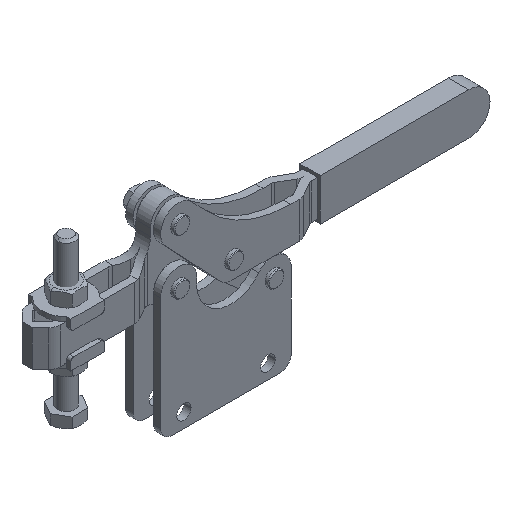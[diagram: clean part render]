
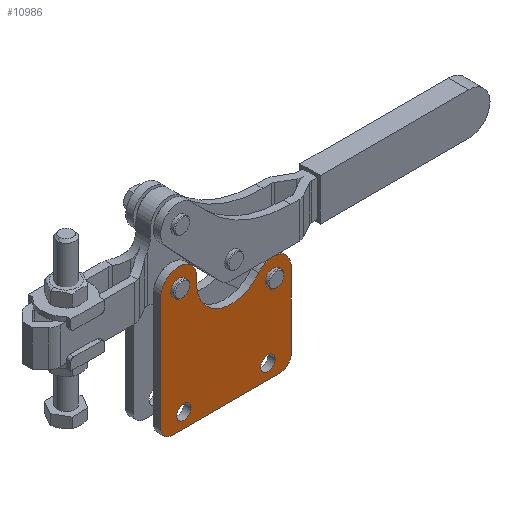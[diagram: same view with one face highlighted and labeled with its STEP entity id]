
A CAD part, isometric view. The second image highlights one B-rep face of the part: STEP entity #10986.
In plain terms, the highlighted planar face has unit normal (0, -1, 0).
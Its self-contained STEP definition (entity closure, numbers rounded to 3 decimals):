
#10879=CARTESIAN_POINT('Axis2P3D Location',(0.,-12.,0.)) ;
#10884=CARTESIAN_POINT('Axis2P3D Location',(101.865,-12.,56.03)) ;
#10888=CARTESIAN_POINT('Cartesian Point',(78.007,-12.,58.64)) ;
#10890=CARTESIAN_POINT('Cartesian Point',(120.747,-12.,41.216)) ;
#10893=CARTESIAN_POINT('Axis2P3D Location',(65.582,-12.,60.)) ;
#10897=CARTESIAN_POINT('Cartesian Point',(53.082,-12.,60.)) ;
#10900=CARTESIAN_POINT('Line Origine',(53.082,-12.,21.)) ;
#10904=CARTESIAN_POINT('Cartesian Point',(53.082,-12.,-18.)) ;
#10907=CARTESIAN_POINT('Axis2P3D Location',(61.082,-12.,-18.)) ;
#10911=CARTESIAN_POINT('Cartesian Point',(61.082,-12.,-26.)) ;
#10914=CARTESIAN_POINT('Line Origine',(98.082,-12.,-26.)) ;
#10918=CARTESIAN_POINT('Cartesian Point',(135.082,-12.,-26.)) ;
#10921=CARTESIAN_POINT('Axis2P3D Location',(135.082,-12.,-18.)) ;
#10925=CARTESIAN_POINT('Cartesian Point',(143.082,-12.,-18.)) ;
#10928=CARTESIAN_POINT('Line Origine',(143.082,-12.,7.75)) ;
#10932=CARTESIAN_POINT('Cartesian Point',(143.082,-12.,33.5)) ;
#10935=CARTESIAN_POINT('Axis2P3D Location',(130.582,-12.,33.5)) ;
#10950=CARTESIAN_POINT('Axis2P3D Location',(127.082,-12.,-16.)) ;
#10954=CARTESIAN_POINT('Cartesian Point',(132.082,-12.,-16.)) ;
#10956=CARTESIAN_POINT('Cartesian Point',(122.082,-12.,-16.)) ;
#10959=CARTESIAN_POINT('Axis2P3D Location',(127.082,-12.,-16.)) ;
#10968=CARTESIAN_POINT('Axis2P3D Location',(69.082,-12.,-16.)) ;
#10972=CARTESIAN_POINT('Cartesian Point',(74.082,-12.,-16.)) ;
#10974=CARTESIAN_POINT('Cartesian Point',(64.082,-12.,-16.)) ;
#10977=CARTESIAN_POINT('Axis2P3D Location',(69.082,-12.,-16.)) ;
#10880=DIRECTION('Axis2P3D Direction',(0.,1.,0.)) ;
#10881=DIRECTION('Axis2P3D XDirection',(0.,0.,-1.)) ;
#10885=DIRECTION('Axis2P3D Direction',(0.,1.,0.)) ;
#10894=DIRECTION('Axis2P3D Direction',(0.,1.,0.)) ;
#10901=DIRECTION('Vector Direction',(0.,0.,1.)) ;
#10908=DIRECTION('Axis2P3D Direction',(0.,1.,0.)) ;
#10915=DIRECTION('Vector Direction',(1.,0.,0.)) ;
#10922=DIRECTION('Axis2P3D Direction',(0.,1.,0.)) ;
#10929=DIRECTION('Vector Direction',(0.,0.,1.)) ;
#10936=DIRECTION('Axis2P3D Direction',(0.,1.,0.)) ;
#10951=DIRECTION('Axis2P3D Direction',(0.,1.,0.)) ;
#10960=DIRECTION('Axis2P3D Direction',(0.,1.,0.)) ;
#10969=DIRECTION('Axis2P3D Direction',(0.,1.,0.)) ;
#10978=DIRECTION('Axis2P3D Direction',(0.,1.,0.)) ;
#10882=AXIS2_PLACEMENT_3D('Plane Axis2P3D',#10879,#10880,#10881) ;
#10886=AXIS2_PLACEMENT_3D('Circle Axis2P3D',#10884,#10885,$) ;
#10895=AXIS2_PLACEMENT_3D('Circle Axis2P3D',#10893,#10894,$) ;
#10909=AXIS2_PLACEMENT_3D('Circle Axis2P3D',#10907,#10908,$) ;
#10923=AXIS2_PLACEMENT_3D('Circle Axis2P3D',#10921,#10922,$) ;
#10937=AXIS2_PLACEMENT_3D('Circle Axis2P3D',#10935,#10936,$) ;
#10952=AXIS2_PLACEMENT_3D('Circle Axis2P3D',#10950,#10951,$) ;
#10961=AXIS2_PLACEMENT_3D('Circle Axis2P3D',#10959,#10960,$) ;
#10970=AXIS2_PLACEMENT_3D('Circle Axis2P3D',#10968,#10969,$) ;
#10979=AXIS2_PLACEMENT_3D('Circle Axis2P3D',#10977,#10978,$) ;
#10941=ORIENTED_EDGE('Oriented Edge',*,*,#10892,.F.) ;
#10942=ORIENTED_EDGE('Oriented Edge',*,*,#10899,.T.) ;
#10943=ORIENTED_EDGE('Oriented Edge',*,*,#10906,.F.) ;
#10944=ORIENTED_EDGE('Oriented Edge',*,*,#10913,.T.) ;
#10945=ORIENTED_EDGE('Oriented Edge',*,*,#10920,.T.) ;
#10946=ORIENTED_EDGE('Oriented Edge',*,*,#10927,.T.) ;
#10947=ORIENTED_EDGE('Oriented Edge',*,*,#10934,.T.) ;
#10948=ORIENTED_EDGE('Oriented Edge',*,*,#10939,.T.) ;
#10965=ORIENTED_EDGE('Oriented Edge',*,*,#10958,.F.) ;
#10966=ORIENTED_EDGE('Oriented Edge',*,*,#10963,.F.) ;
#10983=ORIENTED_EDGE('Oriented Edge',*,*,#10976,.F.) ;
#10984=ORIENTED_EDGE('Oriented Edge',*,*,#10981,.F.) ;
#10967=FACE_BOUND('Face Bound',#10964,.T.) ;
#10985=FACE_BOUND('Face Bound',#10982,.T.) ;
#10902=VECTOR('Line Direction',#10901,1.) ;
#10916=VECTOR('Line Direction',#10915,1.) ;
#10930=VECTOR('Line Direction',#10929,1.) ;
#10986=ADVANCED_FACE('',(#10949,#10967,#10985),#10883,.F.) ;
#10887=CIRCLE('generated circle',#10886,24.) ;
#10896=CIRCLE('generated circle',#10895,12.5) ;
#10910=CIRCLE('generated circle',#10909,8.) ;
#10924=CIRCLE('generated circle',#10923,8.) ;
#10938=CIRCLE('generated circle',#10937,12.5) ;
#10953=CIRCLE('generated circle',#10952,5.) ;
#10962=CIRCLE('generated circle',#10961,5.) ;
#10971=CIRCLE('generated circle',#10970,5.) ;
#10980=CIRCLE('generated circle',#10979,5.) ;
#10892=EDGE_CURVE('',#10889,#10891,#10887,.F.) ;
#10899=EDGE_CURVE('',#10889,#10898,#10896,.F.) ;
#10906=EDGE_CURVE('',#10905,#10898,#10903,.T.) ;
#10913=EDGE_CURVE('',#10905,#10912,#10910,.F.) ;
#10920=EDGE_CURVE('',#10912,#10919,#10917,.T.) ;
#10927=EDGE_CURVE('',#10919,#10926,#10924,.F.) ;
#10934=EDGE_CURVE('',#10926,#10933,#10931,.T.) ;
#10939=EDGE_CURVE('',#10933,#10891,#10938,.F.) ;
#10958=EDGE_CURVE('',#10955,#10957,#10953,.F.) ;
#10963=EDGE_CURVE('',#10957,#10955,#10962,.F.) ;
#10976=EDGE_CURVE('',#10973,#10975,#10971,.F.) ;
#10981=EDGE_CURVE('',#10975,#10973,#10980,.F.) ;
#10940=EDGE_LOOP('Oriented Loop',(#10941,#10942,#10943,#10944,#10945,#10946,#10947,#10948)) ;
#10964=EDGE_LOOP('Oriented Loop',(#10965,#10966)) ;
#10982=EDGE_LOOP('Oriented Loop',(#10983,#10984)) ;
#10949=FACE_OUTER_BOUND('Face Bound',#10940,.T.) ;
#10903=LINE('Line',#10900,#10902) ;
#10917=LINE('Line',#10914,#10916) ;
#10931=LINE('Line',#10928,#10930) ;
#10883=PLANE('Plane',#10882) ;
#10889=VERTEX_POINT('Vertex Point',#10888) ;
#10891=VERTEX_POINT('Vertex Point',#10890) ;
#10898=VERTEX_POINT('Vertex Point',#10897) ;
#10905=VERTEX_POINT('Vertex Point',#10904) ;
#10912=VERTEX_POINT('Vertex Point',#10911) ;
#10919=VERTEX_POINT('Vertex Point',#10918) ;
#10926=VERTEX_POINT('Vertex Point',#10925) ;
#10933=VERTEX_POINT('Vertex Point',#10932) ;
#10955=VERTEX_POINT('Vertex Point',#10954) ;
#10957=VERTEX_POINT('Vertex Point',#10956) ;
#10973=VERTEX_POINT('Vertex Point',#10972) ;
#10975=VERTEX_POINT('Vertex Point',#10974) ;
